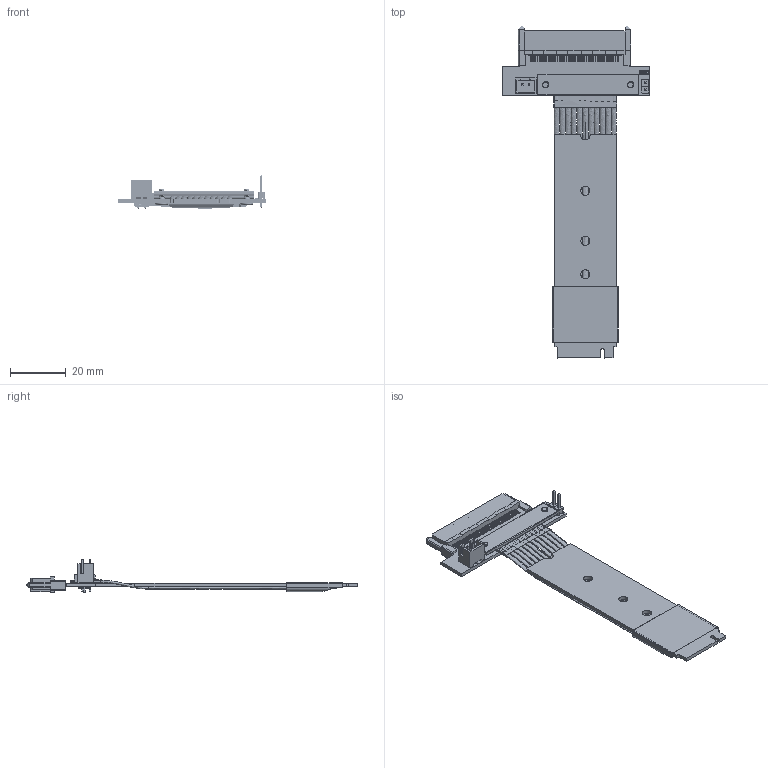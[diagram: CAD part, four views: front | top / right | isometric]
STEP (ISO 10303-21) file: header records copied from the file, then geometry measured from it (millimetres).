
FILE_DESCRIPTION(('Open CASCADE Model'),'2;1');
FILE_NAME('Open CASCADE Shape Model','2025-08-13T15:01:02',('Author'),( 'Open CASCADE'),'Open CASCADE STEP processor 7.5','Open CASCADE 7.5' ,'Unknown');
FILE_SCHEMA(('AUTOMOTIVE_DESIGN { 1 0 10303 214 1 1 1 1 }'));
Length unit declared in the file: millimetre
Products named in the file (216): PCB; Board; Open CASCADE STEP translator 7.5 5.1.1; R6; 0603_RES; Capsule; Encapsulation; TopCover; R5; D2; LED AP1608; CN2; JST 2pin; CN3; BPSC-02; 1; Pino; Base; 2; Pino001; Base001; CN1; 68F-SS10-0115-00.step; Free-Models; R4S HST 20220711_RGB4408131; SFPLAM300057_3D 24P 20250423; SFPLAM300057_3D 20P 20250423; K4±¡¿ Sэ HST 20250731; K1S-A 20221109; M2 H=5mm 20220810_RGB1315860
Assembly tree (219 placements, depth 5):
  PCB
    Board
      Open CASCADE STEP translator 7.5 5.1.1
    R6
      0603_RES
        Capsule
        Encapsulation  x2
        TopCover
    R5
      0603_RES
        Capsule
        Encapsulation  x2
        TopCover
    D2
      LED AP1608
    CN2
      JST 2pin
    CN3
      BPSC-02
        1
          Pino
          Base
        2
          Pino001
          Base001
    CN1
      68F-SS10-0115-00.step  x2
      68F-SS10-0115-00.step
    Free-Models
      R4S HST 20220711_RGB4408131
      SFPLAM300057_3D 24P 20250423
      SFPLAM300057_3D 24P 20250423
      SFPLAM300057_3D 24P 20250423
      SFPLAM300057_3D 24P 20250423
      SFPLAM300057_3D 24P 20250423
      SFPLAM300057_3D 24P 20250423
      SFPLAM300057_3D 24P 20250423
      SFPLAM300057_3D 24P 20250423
      SFPLAM300057_3D 24P 20250423
      SFPLAM300057_3D 24P 20250423
      SFPLAM300057_3D 24P 20250423
      SFPLAM300057_3D 24P 20250423
      SFPLAM300057_3D 24P 20250423
      SFPLAM300057_3D 24P 20250423
      SFPLAM300057_3D 24P 20250423
      SFPLAM300057_3D 24P 20250423
      SFPLAM300057_3D 24P 20250423
      SFPLAM300057_3D 24P 20250423
      SFPLAM300057_3D 24P 20250423
      SFPLAM300057_3D 24P 20250423
      SFPLAM300057_3D 24P 20250423
      SFPLAM300057_3D 24P 20250423
      SFPLAM300057_3D 24P 20250423
      SFPLAM300057_3D 24P 20250423
      SFPLAM300057_3D 24P 20250423
      SFPLAM300057_3D 24P 20250423
      SFPLAM300057_3D 24P 20250423
      SFPLAM300057_3D 24P 20250423
      SFPLAM300057_3D 24P 20250423
      SFPLAM300057_3D 24P 20250423
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Bounding box: 53.01 x 119.07 x 11.92 mm (x, y, z)
Volume: 7278.3 mm3; surface area: 26321.1 mm2
Topology: 214 solids, 214 shells, 7396 faces, 20565 edges, 13517 vertices
Faces by surface type: plane 6211, cylinder 727, bspline 380, extrusion 70, torus 8
Full cylindrical faces by diameter (mm): 0.2 x110, 0.254 x176, 0.63 x22, 1.05 x4, 2.2 x3, 3.3 x3
Entity records: 231743 total; most frequent: CARTESIAN_POINT 49468, ORIENTED_EDGE 29090, DIRECTION 25268, EDGE_CURVE 14545, VECTOR 12328, LINE 12258, VERTEX_POINT 9540, AXIS2_PLACEMENT_3D 6470
